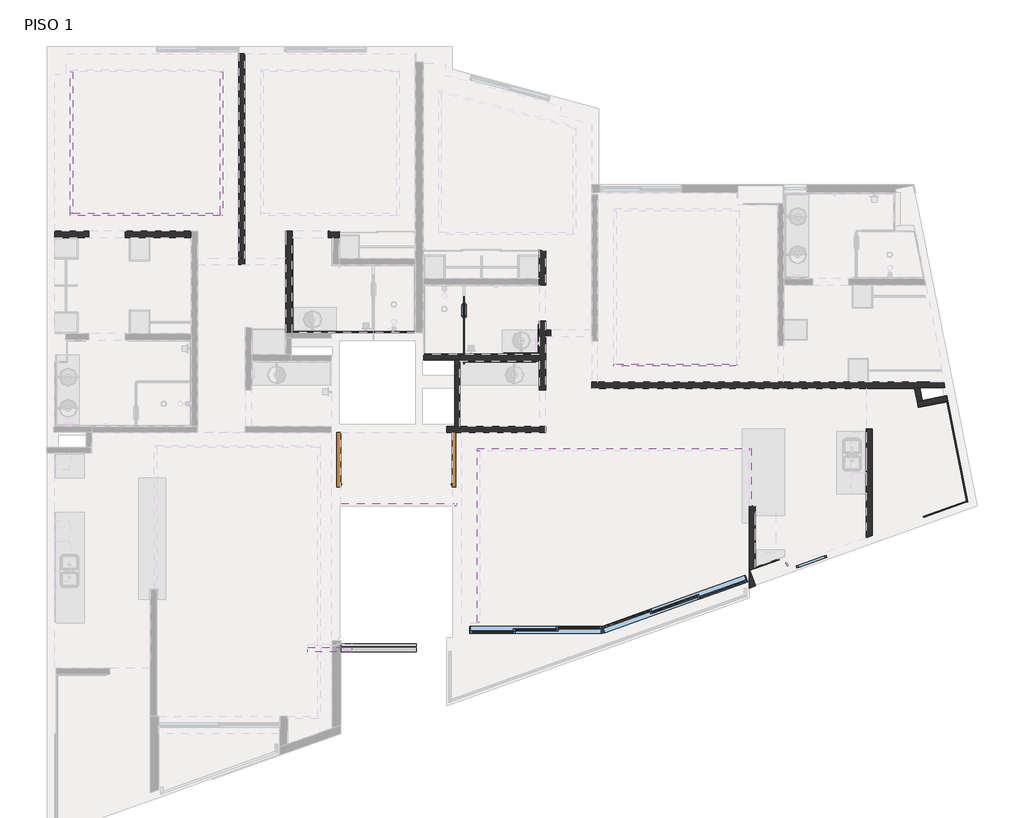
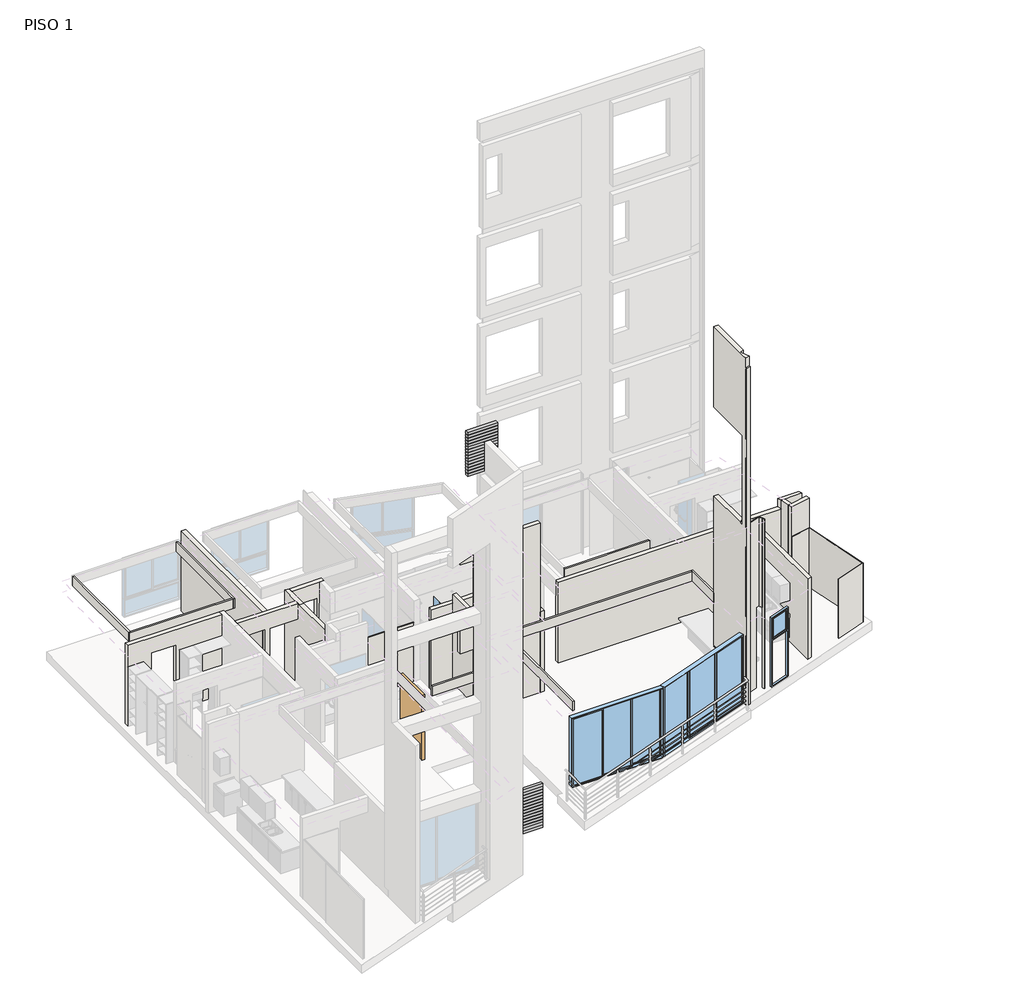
# One storey, part 2 of 4: 34 walls, 30 plates, 7 members, 6 windows, 2 doors.
"""IFC4 building model written with IfcOpenShell, lengths in millimetres."""

from ifc_helpers import new_model, si_unit, frame, origin, place, context, project, spatial, polyline, outline, extrude, faceted_brep, transform, mapped, element, save
from components import door_120_x_220_cm_1a80d65d, door_120_x_220_cm_c73bc2d5, montante_rectangular_montante_rectangular_1_5x5_73253757, plate_31059733, plate_64fcae3b, window_25a9a49d, window_1067b7f7, window_0b8e7a57, window_47e7c2ce, window_0ac24249, window_db60b2a9

model = new_model("IFC4")

# Units and contexts
model_context = context("Model", 3, world=origin())
ifc_project = project(units=[si_unit("LENGTHUNIT", "METRE", prefix="MILLI")], contexts=[model_context])

# Site, building, storey
site = spatial("IfcSite", under=ifc_project)
building = spatial("IfcBuilding", under=site)
storey = spatial("IfcBuildingStorey", under=building, Name="PISO 1", Elevation=3000.0)

# Doors
placement = place(None, origin())
door_120_x_220_cm_shape = door_120_x_220_cm_1a80d65d(model_context)
element("IfcDoor", 1, ObjectType="PUERTA ACCESO_PIVOT : 120 x 220 cm", at=placement, inside=storey, context=model_context, shape_type="MappedRepresentation", body=[
    mapped(door_120_x_220_cm_shape, transform((40339.5059119, 28707.1436004, 3000.0), x_axis=(0.0, 1.0, 0.0), y_axis=(-1.0, 0.0, 0.0), z_axis=(0.0, 0.0, 1.0))),
])
door_120_x_220_cm_2_shape = door_120_x_220_cm_c73bc2d5(model_context)
element("IfcDoor", 2, ObjectType="PUERTA ACCESO_PIVOT : 120 x 220 cm", at=placement, inside=storey, context=model_context, shape_type="MappedRepresentation", body=[
    mapped(door_120_x_220_cm_2_shape, transform((43004.5059119, 28707.1436004, 3000.0), x_axis=(0.0, 1.0, 0.0), y_axis=(-1.0, 0.0, 0.0), z_axis=(0.0, 0.0, 1.0))),
])

# Members
montante_rectangular_montante_rectangular_1_5x5_shape = montante_rectangular_montante_rectangular_1_5x5_73253757(model_context)
element("IfcMember", 3, ObjectType="Montante rectangular : Montante rectangular - 1.5x5", at=placement, inside=storey, context=model_context, shape_type="MappedRepresentation", body=[
    mapped(montante_rectangular_montante_rectangular_1_5x5_shape, transform((40444.5059119, 25044.0111729, 3112.2350993), x_axis=(0.0, 0.0, 1.0), y_axis=(0.0, 1.0, 0.0), z_axis=(-1.0, 0.0, 0.0))),
])
element("IfcMember", 4, ObjectType="Montante rectangular : Montante rectangular - 1.5x5", at=placement, inside=storey, context=model_context, shape_type="MappedRepresentation", body=[
    mapped(montante_rectangular_montante_rectangular_1_5x5_shape, transform((40444.5059119, 25044.0111729, 3212.2019868), x_axis=(0.0, 0.0, 1.0), y_axis=(0.0, 1.0, 0.0), z_axis=(-1.0, 0.0, 0.0))),
])
element("IfcMember", 5, ObjectType="Montante rectangular : Montante rectangular - 1.5x5", at=placement, inside=storey, context=model_context, shape_type="MappedRepresentation", body=[
    mapped(montante_rectangular_montante_rectangular_1_5x5_shape, transform((40444.5059119, 25044.0111729, 3312.1688742), x_axis=(0.0, 0.0, 1.0), y_axis=(0.0, 1.0, 0.0), z_axis=(-1.0, 0.0, 0.0))),
])
element("IfcMember", 6, ObjectType="Montante rectangular : Montante rectangular - 1.5x5", at=placement, inside=storey, context=model_context, shape_type="MappedRepresentation", body=[
    mapped(montante_rectangular_montante_rectangular_1_5x5_shape, transform((40444.5059119, 25044.0111729, 3412.1357616), x_axis=(0.0, 0.0, 1.0), y_axis=(0.0, 1.0, 0.0), z_axis=(-1.0, 0.0, 0.0))),
])
element("IfcMember", 7, ObjectType="Montante rectangular : Montante rectangular - 1.5x5", at=placement, inside=storey, context=model_context, shape_type="MappedRepresentation", body=[
    mapped(montante_rectangular_montante_rectangular_1_5x5_shape, transform((40444.5059119, 25044.0111729, 3512.102649), x_axis=(0.0, 0.0, 1.0), y_axis=(0.0, 1.0, 0.0), z_axis=(-1.0, 0.0, 0.0))),
])
element("IfcMember", 8, ObjectType="Montante rectangular : Montante rectangular - 1.5x5", at=placement, inside=storey, context=model_context, shape_type="MappedRepresentation", body=[
    mapped(montante_rectangular_montante_rectangular_1_5x5_shape, transform((40444.5059119, 25044.0111729, 3612.0695364), x_axis=(0.0, 0.0, 1.0), y_axis=(0.0, 1.0, 0.0), z_axis=(-1.0, 0.0, 0.0))),
])
element("IfcMember", 9, ObjectType="Montante rectangular : Montante rectangular - 1.5x5", at=placement, inside=storey, context=model_context, shape_type="MappedRepresentation", body=[
    mapped(montante_rectangular_montante_rectangular_1_5x5_shape, transform((40444.5059119, 25044.0111729, 3712.0364238), x_axis=(0.0, 0.0, 1.0), y_axis=(0.0, 1.0, 0.0), z_axis=(-1.0, 0.0, 0.0))),
])

# Plates
plate_shape = plate_31059733(model_context)
element("IfcPlate", 10, ObjectType="Panel del sistema vacío : Vacío", at=placement, inside=storey, context=model_context, shape_type="MappedRepresentation", body=[
    mapped(plate_shape, transform((40204.5059119, 25044.0111729, 15015.8), x_axis=(-1.0, 0.0, 0.0), y_axis=(0.0, -1.0, 0.0), z_axis=(0.0, 0.0, 1.0))),
])
element("IfcPlate", 11, ObjectType="Panel del sistema vacío : Vacío", at=placement, inside=storey, context=model_context, shape_type="MappedRepresentation", body=[
    mapped(plate_shape, transform((40204.5059119, 25044.0111729, 15115.7666667), x_axis=(-1.0, 0.0, 0.0), y_axis=(0.0, -1.0, 0.0), z_axis=(0.0, 0.0, 1.0))),
])
element("IfcPlate", 12, ObjectType="Panel del sistema vacío : Vacío", at=placement, inside=storey, context=model_context, shape_type="MappedRepresentation", body=[
    mapped(plate_shape, transform((40204.5059119, 25044.0111729, 15215.7333333), x_axis=(-1.0, 0.0, 0.0), y_axis=(0.0, -1.0, 0.0), z_axis=(0.0, 0.0, 1.0))),
])
element("IfcPlate", 13, ObjectType="Panel del sistema vacío : Vacío", at=placement, inside=storey, context=model_context, shape_type="MappedRepresentation", body=[
    mapped(plate_shape, transform((40204.5059119, 25044.0111729, 15315.7), x_axis=(-1.0, 0.0, 0.0), y_axis=(0.0, -1.0, 0.0), z_axis=(0.0, 0.0, 1.0))),
])
element("IfcPlate", 14, ObjectType="Panel del sistema vacío : Vacío", at=placement, inside=storey, context=model_context, shape_type="MappedRepresentation", body=[
    mapped(plate_shape, transform((40204.5059119, 25044.0111729, 15415.6666667), x_axis=(-1.0, 0.0, 0.0), y_axis=(0.0, -1.0, 0.0), z_axis=(0.0, 0.0, 1.0))),
])
element("IfcPlate", 15, ObjectType="Panel del sistema vacío : Vacío", at=placement, inside=storey, context=model_context, shape_type="MappedRepresentation", body=[
    mapped(plate_shape, transform((40204.5059119, 25044.0111729, 15515.6333333), x_axis=(-1.0, 0.0, 0.0), y_axis=(0.0, -1.0, 0.0), z_axis=(0.0, 0.0, 1.0))),
])
element("IfcPlate", 16, ObjectType="Panel del sistema vacío : Vacío", at=placement, inside=storey, context=model_context, shape_type="MappedRepresentation", body=[
    mapped(plate_shape, transform((40204.5059119, 25044.0111729, 15615.6), x_axis=(-1.0, 0.0, 0.0), y_axis=(0.0, -1.0, 0.0), z_axis=(0.0, 0.0, 1.0))),
])
element("IfcPlate", 17, ObjectType="Panel del sistema vacío : Vacío", at=placement, inside=storey, context=model_context, shape_type="MappedRepresentation", body=[
    mapped(plate_shape, transform((40204.5059119, 25044.0111729, 15715.5666667), x_axis=(-1.0, 0.0, 0.0), y_axis=(0.0, -1.0, 0.0), z_axis=(0.0, 0.0, 1.0))),
])
element("IfcPlate", 18, ObjectType="Panel del sistema vacío : Vacío", at=placement, inside=storey, context=model_context, shape_type="MappedRepresentation", body=[
    mapped(plate_shape, transform((40204.5059119, 25044.0111729, 15815.5333333), x_axis=(-1.0, 0.0, 0.0), y_axis=(0.0, -1.0, 0.0), z_axis=(0.0, 0.0, 1.0))),
])
element("IfcPlate", 19, ObjectType="Panel del sistema vacío : Vacío", at=placement, inside=storey, context=model_context, shape_type="MappedRepresentation", body=[
    mapped(plate_shape, transform((40204.5059119, 25044.0111729, 15915.5), x_axis=(-1.0, 0.0, 0.0), y_axis=(0.0, -1.0, 0.0), z_axis=(0.0, 0.0, 1.0))),
])
element("IfcPlate", 20, ObjectType="Panel del sistema vacío : Vacío", at=placement, inside=storey, context=model_context, shape_type="MappedRepresentation", body=[
    mapped(plate_shape, transform((40204.5059119, 25044.0111729, 16015.4666667), x_axis=(-1.0, 0.0, 0.0), y_axis=(0.0, -1.0, 0.0), z_axis=(0.0, 0.0, 1.0))),
])
element("IfcPlate", 21, ObjectType="Panel del sistema vacío : Vacío", at=placement, inside=storey, context=model_context, shape_type="MappedRepresentation", body=[
    mapped(plate_shape, transform((40204.5059119, 25044.0111729, 16115.4333333), x_axis=(-1.0, 0.0, 0.0), y_axis=(0.0, -1.0, 0.0), z_axis=(0.0, 0.0, 1.0))),
])
element("IfcPlate", 22, ObjectType="Panel del sistema vacío : Vacío", at=placement, inside=storey, context=model_context, shape_type="MappedRepresentation", body=[
    mapped(plate_shape, transform((40204.5059119, 25044.0111729, 16215.4), x_axis=(-1.0, 0.0, 0.0), y_axis=(0.0, -1.0, 0.0), z_axis=(0.0, 0.0, 1.0))),
])
element("IfcPlate", 23, ObjectType="Panel del sistema vacío : Vacío", at=placement, inside=storey, context=model_context, shape_type="MappedRepresentation", body=[
    mapped(plate_shape, transform((40204.5059119, 25044.0111729, 16315.3666667), x_axis=(-1.0, 0.0, 0.0), y_axis=(0.0, -1.0, 0.0), z_axis=(0.0, 0.0, 1.0))),
])
element("IfcPlate", 24, ObjectType="Panel del sistema vacío : Vacío", at=placement, inside=storey, context=model_context, shape_type="MappedRepresentation", body=[
    mapped(plate_shape, transform((40204.5059119, 25044.0111729, 16415.3333333), x_axis=(-1.0, 0.0, 0.0), y_axis=(0.0, -1.0, 0.0), z_axis=(0.0, 0.0, 1.0))),
])
plate_2_shape = plate_64fcae3b(model_context)
element("IfcPlate", 25, ObjectType="Panel del sistema vacío : Vacío", at=placement, inside=storey, context=model_context, shape_type="MappedRepresentation", body=[
    mapped(plate_2_shape, transform((41279.5059119, 25044.0111729, 2320.0), x_axis=(-1.0, 0.0, 0.0), y_axis=(0.0, -1.0, 0.0), z_axis=(0.0, 0.0, 1.0))),
])
element("IfcPlate", 26, ObjectType="Panel del sistema vacío : Vacío", at=placement, inside=storey, context=model_context, shape_type="MappedRepresentation", body=[
    mapped(plate_2_shape, transform((41279.5059119, 25044.0111729, 2419.9668874), x_axis=(-1.0, 0.0, 0.0), y_axis=(0.0, -1.0, 0.0), z_axis=(0.0, 0.0, 1.0))),
])
element("IfcPlate", 27, ObjectType="Panel del sistema vacío : Vacío", at=placement, inside=storey, context=model_context, shape_type="MappedRepresentation", body=[
    mapped(plate_2_shape, transform((41279.5059119, 25044.0111729, 2519.9337748), x_axis=(-1.0, 0.0, 0.0), y_axis=(0.0, -1.0, 0.0), z_axis=(0.0, 0.0, 1.0))),
])
element("IfcPlate", 28, ObjectType="Panel del sistema vacío : Vacío", at=placement, inside=storey, context=model_context, shape_type="MappedRepresentation", body=[
    mapped(plate_2_shape, transform((41279.5059119, 25044.0111729, 2619.9006623), x_axis=(-1.0, 0.0, 0.0), y_axis=(0.0, -1.0, 0.0), z_axis=(0.0, 0.0, 1.0))),
])
element("IfcPlate", 29, ObjectType="Panel del sistema vacío : Vacío", at=placement, inside=storey, context=model_context, shape_type="MappedRepresentation", body=[
    mapped(plate_2_shape, transform((41279.5059119, 25044.0111729, 2719.8675497), x_axis=(-1.0, 0.0, 0.0), y_axis=(0.0, -1.0, 0.0), z_axis=(0.0, 0.0, 1.0))),
])
element("IfcPlate", 30, ObjectType="Panel del sistema vacío : Vacío", at=placement, inside=storey, context=model_context, shape_type="MappedRepresentation", body=[
    mapped(plate_2_shape, transform((41279.5059119, 25044.0111729, 2819.8344371), x_axis=(-1.0, 0.0, 0.0), y_axis=(0.0, -1.0, 0.0), z_axis=(0.0, 0.0, 1.0))),
])
element("IfcPlate", 31, ObjectType="Panel del sistema vacío : Vacío", at=placement, inside=storey, context=model_context, shape_type="MappedRepresentation", body=[
    mapped(plate_2_shape, transform((41279.5059119, 25044.0111729, 2919.8013245), x_axis=(-1.0, 0.0, 0.0), y_axis=(0.0, -1.0, 0.0), z_axis=(0.0, 0.0, 1.0))),
])
element("IfcPlate", 32, ObjectType="Panel del sistema vacío : Vacío", at=placement, inside=storey, context=model_context, shape_type="MappedRepresentation", body=[
    mapped(plate_2_shape, transform((41279.5059119, 25044.0111729, 3019.7682119), x_axis=(-1.0, 0.0, 0.0), y_axis=(0.0, -1.0, 0.0), z_axis=(0.0, 0.0, 1.0))),
])
element("IfcPlate", 33, ObjectType="Panel del sistema vacío : Vacío", at=placement, inside=storey, context=model_context, shape_type="MappedRepresentation", body=[
    mapped(plate_2_shape, transform((41279.5059119, 25044.0111729, 3119.7350993), x_axis=(-1.0, 0.0, 0.0), y_axis=(0.0, -1.0, 0.0), z_axis=(0.0, 0.0, 1.0))),
])
element("IfcPlate", 34, ObjectType="Panel del sistema vacío : Vacío", at=placement, inside=storey, context=model_context, shape_type="MappedRepresentation", body=[
    mapped(plate_2_shape, transform((41279.5059119, 25044.0111729, 3219.7019868), x_axis=(-1.0, 0.0, 0.0), y_axis=(0.0, -1.0, 0.0), z_axis=(0.0, 0.0, 1.0))),
])
element("IfcPlate", 35, ObjectType="Panel del sistema vacío : Vacío", at=placement, inside=storey, context=model_context, shape_type="MappedRepresentation", body=[
    mapped(plate_2_shape, transform((41279.5059119, 25044.0111729, 3319.6688742), x_axis=(-1.0, 0.0, 0.0), y_axis=(0.0, -1.0, 0.0), z_axis=(0.0, 0.0, 1.0))),
])
element("IfcPlate", 36, ObjectType="Panel del sistema vacío : Vacío", at=placement, inside=storey, context=model_context, shape_type="MappedRepresentation", body=[
    mapped(plate_2_shape, transform((41279.5059119, 25044.0111729, 3419.6357616), x_axis=(-1.0, 0.0, 0.0), y_axis=(0.0, -1.0, 0.0), z_axis=(0.0, 0.0, 1.0))),
])
element("IfcPlate", 37, ObjectType="Panel del sistema vacío : Vacío", at=placement, inside=storey, context=model_context, shape_type="MappedRepresentation", body=[
    mapped(plate_2_shape, transform((41279.5059119, 25044.0111729, 3519.602649), x_axis=(-1.0, 0.0, 0.0), y_axis=(0.0, -1.0, 0.0), z_axis=(0.0, 0.0, 1.0))),
])
element("IfcPlate", 38, ObjectType="Panel del sistema vacío : Vacío", at=placement, inside=storey, context=model_context, shape_type="MappedRepresentation", body=[
    mapped(plate_2_shape, transform((41279.5059119, 25044.0111729, 3619.5695364), x_axis=(-1.0, 0.0, 0.0), y_axis=(0.0, -1.0, 0.0), z_axis=(0.0, 0.0, 1.0))),
])
element("IfcPlate", 39, ObjectType="Panel del sistema vacío : Vacío", at=placement, inside=storey, context=model_context, shape_type="MappedRepresentation", body=[
    mapped(plate_2_shape, transform((41279.5059119, 25044.0111729, 3719.5364238), x_axis=(-1.0, 0.0, 0.0), y_axis=(0.0, -1.0, 0.0), z_axis=(0.0, 0.0, 1.0))),
])

# Walls
element("IfcWall", 40, ObjectType="Muro block 12cms_int_ductos", at=placement, inside=storey, context=model_context, shape_type="Brep", body=[
    faceted_brep([(42279.5059119, 31324.0104755, 3000.0), (42954.5059119, 31324.0104755, 3000.0), (43074.5059119, 31324.0104755, 3000.0), (43074.5059119, 31324.0104755, 5720.0), (42954.5059119, 31324.0104755, 5720.0), (42279.5059119, 31324.0104755, 5720.0), (43074.5059119, 31444.0104755, 3000.0), (42279.5059119, 31444.0104755, 3000.0), (42279.5059119, 31444.0104755, 5720.0), (43074.5059119, 31444.0104755, 5720.0)], [[[0, 1, 2, 3, 4, 5]], [[6, 7, 8, 9]], [[2, 1, 0, 7, 6]], [[5, 4, 3, 9, 8]], [[2, 6, 9, 3]], [[7, 0, 5, 8]]]),
])
element("IfcWall", 41, ObjectType="Muro block 12cms_int_ductos", at=placement, inside=storey, context=model_context, shape_type="Brep", body=[
    faceted_brep([(43074.5059119, 29864.010184, 3000.0), (43074.5059119, 31304.0104755, 3000.0), (43074.5059119, 31324.0104755, 3000.0), (43074.5059119, 31324.0104755, 5720.0), (43074.5059119, 31324.0104755, 6000.0), (43074.5059119, 29864.010184, 6000.0), (43074.5059119, 29794.010184, 6000.0), (43074.5059119, 29794.010184, 5720.0), (43074.5059119, 29864.010184, 5720.0), (42954.5059119, 29864.010184, 3000.0), (42954.5059119, 29864.010184, 5720.0), (42954.5059119, 29794.010184, 5720.0), (42954.5059119, 29794.010184, 6000.0), (42954.5059119, 29864.010184, 6000.0), (42954.5059119, 31324.0104755, 6000.0), (42954.5059119, 31324.0104755, 3000.0)], [[[0, 1, 2, 3, 4, 5, 6, 7, 8]], [[9, 10, 11, 12, 13, 14, 15]], [[2, 1, 0, 9, 15]], [[6, 5, 4, 14, 13, 12]], [[2, 15, 14, 4, 3]], [[7, 6, 12, 11]], [[7, 11, 10, 8]], [[0, 8, 10, 9]]]),
])
element("IfcWall", 42, ObjectType="Muro block 12cms_int_ductos", at=placement, inside=storey, context=model_context, shape_type="Brep", body=[
    faceted_brep([(53085.5419689, 30724.0100923, 6000.0), (53085.5419689, 30724.0100923, 3000.0), (53207.9252394, 30724.0100923, 3000.0), (53760.5143431, 30724.0100923, 3000.0), (53760.5143431, 30724.0100923, 6000.0), (53207.9252394, 30724.0100923, 6000.0), (53061.5073088, 30844.0100923, 3000.0), (53061.5073088, 30844.0100923, 5720.0), (53061.5073088, 30844.0100923, 6000.0), (53736.479683, 30844.0100923, 6000.0), (53736.479683, 30844.0100923, 3000.0)], [[[0, 1, 2, 3, 4, 5]], [[6, 7, 8, 9, 10]], [[3, 2, 1, 6, 10]], [[0, 5, 4, 9, 8]], [[0, 8, 7, 6, 1]], [[4, 3, 10, 9]]]),
])
element("IfcWall", 43, ObjectType="Muro block 12cms_int_ductos", at=placement, inside=storey, context=model_context, shape_type="Brep", body=[
    faceted_brep([(53171.4946911, 30294.866239, 6000.0), (53820.4344465, 30424.8416261, 6000.0), (53796.8678331, 30542.5047671, 6000.0), (53265.5912187, 30436.0959933, 6000.0), (53147.9280777, 30412.5293799, 6000.0), (53171.4946911, 30294.866239, 3000.0), (53800.823923, 30420.9138573, 3000.0), (53820.4344465, 30424.8416261, 3000.0), (53820.4344465, 30424.8416261, 5000.0), (53147.9280777, 30412.5293799, 3000.0), (53796.8678331, 30542.5047671, 3000.0), (53265.5912187, 30436.0959933, 3000.0)], [[[0, 1, 2, 3, 4]], [[5, 6, 7, 8, 1, 0]], [[9, 4, 3, 2, 10, 11]], [[7, 6, 5, 9, 11, 10]], [[5, 0, 4, 9]], [[7, 10, 2, 1, 8]]]),
])
element("IfcWall", 44, ObjectType="Muro block 12cms_int_ductos", at=placement, inside=storey, context=model_context, shape_type="Brep", body=[
    faceted_brep([(53265.5912187, 30436.0959933, 6000.0), (53207.9252394, 30724.0100923, 6000.0), (53085.5419689, 30724.0100923, 6000.0), (53147.9280777, 30412.5293799, 6000.0), (53265.5912187, 30436.0959933, 3000.0), (53207.9252394, 30724.0100923, 3000.0), (53147.9280777, 30412.5293799, 3000.0), (53085.5419689, 30724.0100923, 3000.0), (53089.5477456, 30704.0100923, 3000.0)], [[[0, 1, 2, 3]], [[4, 5, 1, 0]], [[6, 3, 2, 7, 8]], [[5, 4, 6, 8, 7]], [[4, 0, 3, 6]], [[5, 7, 2, 1]]]),
])
element("IfcWall", 45, ObjectType="Plafond tablaroca", at=placement, inside=storey, context=model_context, shape_type="Brep", body=[
    faceted_brep([(37794.5300226, 37680.4026232, 5402.7), (37794.5300226, 34568.9785701, 5402.7), (37794.5300226, 34516.2785701, 5402.7), (37794.5300226, 34516.2785701, 5720.0), (37794.5300226, 34568.9785701, 5720.0), (37794.5300226, 37680.4026232, 5720.0), (37847.2300226, 37680.4026232, 5402.7), (37847.2300226, 37680.4026232, 5720.0), (37847.2300226, 34516.2785701, 5720.0), (37847.2300226, 34516.2785701, 5402.7)], [[[0, 1, 2, 3, 4, 5]], [[6, 7, 8, 9]], [[0, 5, 7, 6]], [[3, 2, 9, 8]], [[2, 1, 0, 6, 9]], [[5, 4, 3, 8, 7]]]),
])
element("IfcWall", 46, ObjectType="Plafond tablaroca", at=placement, inside=storey, context=model_context, shape_type="Brep", body=[
    faceted_brep([(37794.5300226, 34568.9785701, 5402.7), (34543.8589874, 34568.9785701, 5402.7), (34491.1589874, 34568.9785701, 5402.7), (34491.1589874, 34568.9785701, 5720.0), (34543.8589874, 34568.9785701, 5720.0), (37794.5300226, 34568.9785701, 5720.0), (37794.5300226, 34516.2785701, 5402.7), (37794.5300226, 34516.2785701, 5720.0), (34491.1589874, 34516.2785701, 5720.0), (34491.1589874, 34516.2785701, 5402.7)], [[[0, 1, 2, 3, 4, 5]], [[6, 7, 8, 9]], [[0, 5, 7, 6]], [[3, 2, 9, 8]], [[5, 4, 3, 8, 7]], [[2, 1, 0, 6, 9]]]),
])
element("IfcWall", 47, ObjectType="Plafond tablaroca", at=placement, inside=storey, context=model_context, shape_type="SweptSolid", body=[
    extrude(outline(polyline([(34543.8589874, 37680.4026232), (34543.8589874, 34568.9785701), (34491.1589874, 34568.9785701), (34491.1589874, 37680.4026232), (34543.8589874, 37680.4026232)])), frame((0.0, 0.0, 5402.7), z_axis=(0.0, 0.0, 1.0), x_axis=(1.0, 0.0, 0.0)), (0.0, 0.0, 1.0), 317.3),
])
element("IfcWall", 48, ObjectType="Plafond tablaroca", at=placement, inside=storey, context=model_context, shape_type="Brep", body=[
    faceted_brep([(49174.4822189, 31244.0100923, 5402.7), (46514.5059119, 31244.0100923, 5402.7), (46461.8059119, 31244.0100923, 5402.7), (46461.8059119, 31244.0100923, 5720.0), (46514.5059119, 31244.0100923, 5720.0), (49174.4822189, 31244.0100923, 5720.0), (49174.4822189, 31191.3100923, 5402.7), (49174.4822189, 31191.3100923, 5720.0), (46461.8059119, 31191.3100923, 5720.0), (46461.8059119, 31191.3100923, 5402.7)], [[[0, 1, 2, 3, 4, 5]], [[6, 7, 8, 9]], [[0, 5, 7, 6]], [[3, 2, 9, 8]], [[2, 1, 0, 6, 9]], [[5, 4, 3, 8, 7]]]),
])
element("IfcWall", 49, ObjectType="Plafond tablaroca", at=placement, inside=storey, context=model_context, shape_type="Brep", body=[
    faceted_brep([(49444.5059119, 29376.710184, 5402.7), (49444.5059119, 29324.010184, 5402.7), (49444.5059119, 28111.0432167, 5402.7), (49444.5059119, 28111.0432167, 5720.0), (49444.5059119, 29324.010184, 5720.0), (49444.5059119, 29376.710184, 5720.0), (49497.2059119, 29376.710184, 5402.7), (49497.2059119, 29376.710184, 5720.0), (49497.2059119, 28111.0432167, 5720.0), (49497.2059119, 28111.0432167, 5402.7)], [[[0, 1, 2, 3, 4, 5]], [[6, 7, 8, 9]], [[3, 2, 9, 8]], [[0, 5, 7, 6]], [[2, 1, 0, 6, 9]], [[5, 4, 3, 8, 7]]]),
])
element("IfcWall", 50, ObjectType="Plafond tablaroca", at=placement, inside=storey, context=model_context, shape_type="SweptSolid", body=[
    extrude(outline(polyline([(5400.0, 43004.5059119), (5720.0, 43004.5059119), (5720.0, 40444.5059119), (5402.7, 40444.5059119), (5402.7, 42899.5059119), (5400.0, 42899.5059119), (5400.0, 43004.5059119)])), frame((0.0, 28111.0432167, 0.0), z_axis=(0.0, 1.0, 0.0), x_axis=(0.0, 0.0, 1.0)), (0.0, 0.0, 1.0), 52.7),
])
element("IfcWall", 51, ObjectType="Plafond tablaroca", at=placement, inside=storey, context=model_context, shape_type="Brep", body=[
    faceted_brep([(43456.8059119, 29324.010184, 5402.7), (43509.5059119, 29324.010184, 5402.7), (49444.5059119, 29324.010184, 5402.7), (49444.5059119, 29324.010184, 5720.0), (43509.5059119, 29324.010184, 5720.0), (43456.8059119, 29324.010184, 5720.0), (43456.8059119, 29376.710184, 5402.7), (43456.8059119, 29376.710184, 5720.0), (49444.5059119, 29376.710184, 5720.0), (49444.5059119, 29376.710184, 5402.7)], [[[0, 1, 2, 3, 4, 5]], [[6, 7, 8, 9]], [[0, 5, 7, 6]], [[3, 2, 9, 8]], [[2, 1, 0, 6, 9]], [[5, 4, 3, 8, 7]]]),
])
element("IfcWall", 52, ObjectType="Plafond tablaroca", at=placement, inside=storey, context=model_context, shape_type="SweptSolid", body=[
    extrude(outline(polyline([(43509.5059119, 29324.010184), (43509.5059119, 25545.2541962), (43456.8059119, 25545.2541962), (43456.8059119, 29324.010184), (43509.5059119, 29324.010184)])), frame((0.0, 0.0, 5402.7), z_axis=(0.0, 0.0, 1.0), x_axis=(1.0, 0.0, 0.0)), (0.0, 0.0, 1.0), 317.3),
])
element("IfcWall", 53, ObjectType="Cerámica baño", at=placement, inside=storey, context=model_context, shape_type="Brep", body=[
    faceted_brep([(42064.5059119, 31953.9733508, 5000.0), (42064.5059119, 31953.9733508, 3000.0), (41184.5059119, 31953.9733508, 3000.0), (41184.5059119, 31953.9733508, 5000.0), (42064.5059119, 31933.9733508, 3000.0), (42064.5059119, 31933.9733508, 5000.0), (41184.5059119, 31933.9733508, 5000.0), (41184.5059119, 31933.9733508, 3000.0)], [[[0, 1, 2, 3]], [[4, 5, 6, 7]], [[1, 4, 7, 2]], [[5, 0, 3, 6]], [[1, 0, 5, 4]], [[3, 2, 7, 6]]]),
    faceted_brep([(39374.5300226, 31953.9733508, 3000.0), (39374.5300226, 31953.9733508, 5000.0), (39394.5300226, 31953.9733508, 5000.0), (41144.5059119, 31953.9733508, 5000.0), (41144.5059119, 31953.9733508, 3000.0), (39394.5300226, 31953.9733508, 3000.0), (39374.5300226, 31933.9733508, 5000.0), (39374.5300226, 31933.9733508, 3000.0), (41144.5059119, 31933.9733508, 3000.0), (41144.5059119, 31933.9733508, 5000.0)], [[[0, 1, 2, 3, 4, 5]], [[6, 7, 8, 9]], [[7, 0, 5, 4, 8]], [[1, 6, 9, 3, 2]], [[1, 0, 7, 6]], [[4, 3, 9, 8]]]),
])
element("IfcWall", 54, ObjectType="Cerámica baño", at=placement, inside=storey, context=model_context, shape_type="Brep", body=[
    faceted_brep([(42279.5059119, 31464.0104754, 3000.0), (42279.5059119, 31464.0104754, 5000.0), (42299.5059119, 31464.0104754, 5000.0), (43144.5060721, 31464.0104754, 5000.0), (43144.5060721, 31464.0104754, 3000.0), (42299.5059119, 31464.0104754, 3000.0), (42279.5059119, 31444.0104754, 5000.0), (42279.5059119, 31444.0104754, 3000.0), (43144.5060721, 31444.0104754, 3000.0), (43144.5060721, 31444.0104754, 5000.0)], [[[0, 1, 2, 3, 4, 5]], [[6, 7, 8, 9]], [[7, 0, 5, 4, 8]], [[1, 6, 9, 3, 2]], [[1, 0, 7, 6]], [[4, 3, 9, 8]]]),
    faceted_brep([(44824.5251366, 31464.0104754, 5000.0), (44824.5251366, 31464.0104754, 3000.0), (44804.5251366, 31464.0104754, 3000.0), (43184.5060721, 31464.0104754, 3000.0), (43184.5060721, 31464.0104754, 5000.0), (44804.5251366, 31464.0104754, 5000.0), (44824.5251366, 31444.0104754, 3000.0), (44824.5251366, 31444.0104754, 5000.0), (43184.5060721, 31444.0104754, 5000.0), (43184.5060721, 31444.0104754, 3000.0)], [[[0, 1, 2, 3, 4, 5]], [[6, 7, 8, 9]], [[1, 6, 9, 3, 2]], [[7, 0, 5, 4, 8]], [[1, 0, 7, 6]], [[4, 3, 9, 8]]]),
])
element("IfcWall", 55, ObjectType="Cerámica baño", at=placement, inside=storey, context=model_context, shape_type="SweptSolid", body=[
    extrude(outline(polyline([(39394.5300226, 34028.9785701), (39394.5300226, 31953.9733508), (39374.5300226, 31953.9733508), (39374.5300226, 34028.9785701), (39394.5300226, 34028.9785701)])), frame((0.0, 0.0, 3000.0), z_axis=(0.0, 0.0, 1.0), x_axis=(1.0, 0.0, 0.0)), (0.0, 0.0, 1.0), 2000.0),
])
element("IfcWall", 56, ObjectType="Cerámica baño", at=placement, inside=storey, context=model_context, shape_type="SweptSolid", body=[
    extrude(outline(polyline([(44824.5251366, 32114.0113856), (44824.5251366, 31464.0104754), (44804.5251366, 31464.0104754), (44804.5251366, 32114.0113856), (44824.5251366, 32114.0113856)])), frame((0.0, 0.0, 3000.0), z_axis=(0.0, 0.0, 1.0), x_axis=(1.0, 0.0, 0.0)), (0.0, 0.0, 1.0), 2000.0),
])
element("IfcWall", 57, ObjectType="Cerámica baño", at=placement, inside=storey, context=model_context, shape_type="Brep", body=[
    faceted_brep([(54265.4326509, 28203.0592396, 3000.0), (53820.4344465, 30424.8416261, 3000.0), (53820.4344465, 30424.8416261, 5000.0), (54265.4326509, 28203.0592396, 5000.0), (54246.3942771, 28196.2748474, 3000.0), (54246.3942771, 28196.2748474, 5000.0), (54242.4250551, 28216.0923378, 5000.0), (53804.7516919, 30401.3033338, 5000.0), (53800.823923, 30420.9138573, 5000.0), (53800.823923, 30420.9138573, 3000.0), (53804.7516919, 30401.3033338, 3000.0), (54242.4250551, 28216.0923378, 3000.0)], [[[0, 1, 2, 3]], [[4, 5, 6, 7, 8, 9, 10, 11]], [[1, 0, 4, 11, 10, 9]], [[3, 2, 8, 7, 6, 5]], [[2, 1, 9, 8]], [[0, 3, 5, 4]]]),
])
element("IfcWall", 58, ObjectType="Cerámica baño", at=placement, inside=storey, context=model_context, shape_type="SweptSolid", body=[
    extrude(outline(polyline([(53171.4946911, 30294.866239), (53800.823923, 30420.9138573), (53804.7516919, 30401.3033338), (53175.42246, 30275.2557155), (53171.4946911, 30294.866239)])), frame((0.0, 0.0, 3000.0), z_axis=(0.0, 0.0, 1.0), x_axis=(1.0, 0.0, 0.0)), (0.0, 0.0, 1.0), 2000.0),
])
element("IfcWall", 59, ObjectType="Cerámica baño", at=placement, inside=storey, context=model_context, shape_type="SweptSolid", body=[
    extrude(outline(polyline([(54246.3942771, 28196.2748474), (53289.5122761, 27855.2865395), (53282.7987377, 27874.1260831), (54242.4250551, 28216.0923378), (54246.3942771, 28196.2748474)])), frame((0.0, 0.0, 3000.0), z_axis=(0.0, 0.0, 1.0), x_axis=(1.0, 0.0, 0.0)), (0.0, 0.0, 1.0), 2000.0),
])
element("IfcWall", 60, ObjectType="Muro block 14cms_int", at=placement, inside=storey, context=model_context, shape_type="SweptSolid", body=[
    extrude(outline(polyline([(3000.0, 37154.5300226), (5720.0, 37154.5300226), (5720.0, 34143.8589874), (3000.0, 34143.8589874), (3000.0, 34894.5300226), (5200.0, 34894.5300226), (5200.0, 35694.5300226), (3000.0, 35694.5300226), (3000.0, 37154.5300226)])), frame((0.0, 34028.9785701, 0.0), z_axis=(0.0, 1.0, 0.0), x_axis=(0.0, 0.0, 1.0)), (0.0, 0.0, 1.0), 140.0),
])
element("IfcWall", 61, ObjectType="Muro block 14cms_int", at=placement, inside=storey, context=model_context, shape_type="Brep", body=[
    faceted_brep([(38334.5300226, 33568.9784839, 3000.0), (38334.5300226, 38080.4026232, 3000.0), (38334.5300226, 38080.4026232, 5720.0), (38334.5300226, 33568.9784839, 5720.0), (38334.5300226, 33568.9784839, 5200.0), (38194.5300226, 33568.9784839, 3000.0), (38194.5300226, 33568.9784839, 5200.0), (38194.5300226, 33568.9784839, 5720.0), (38194.5300226, 38080.4026232, 5720.0), (38194.5300226, 38080.4026232, 5350.0), (38194.5300226, 38080.4026232, 3400.0), (38194.5300226, 38080.4026232, 3000.0)], [[[0, 1, 2, 3, 4]], [[5, 6, 7, 8, 9, 10, 11]], [[1, 0, 5, 11]], [[2, 1, 11, 10, 9, 8]], [[0, 4, 3, 7, 6, 5]], [[3, 2, 8, 7]]]),
])
element("IfcWall", 62, ObjectType="Muro block 14cms_int", at=placement, inside=storey, context=model_context, shape_type="Brep", body=[
    faceted_brep([(37294.5300226, 33568.9784839, 5200.0), (37294.5300226, 33568.9784839, 5720.0), (38194.5300226, 33568.9784839, 5720.0), (38334.5300226, 33568.9784839, 5720.0), (39234.5300226, 33568.9784839, 5720.0), (39234.5300226, 33568.9784839, 5200.0), (38334.5300226, 33568.9784839, 5200.0), (38334.5300226, 33568.9784839, 3000.0), (38194.5300226, 33568.9784839, 3000.0), (38194.5300226, 33568.9784839, 5200.0), (37294.5300226, 33428.9784839, 5720.0), (37294.5300226, 33428.9784839, 5200.0), (38194.5300226, 33428.9784839, 5200.0), (38194.5300226, 33428.9784839, 3000.0), (38334.5300226, 33428.9784839, 3000.0), (38334.5300226, 33428.9784839, 5200.0), (39234.5300226, 33428.9784839, 5200.0), (39234.5300226, 33428.9784839, 5720.0)], [[[0, 1, 2, 3, 4, 5, 6, 7, 8, 9]], [[10, 11, 12, 13, 14, 15, 16, 17]], [[13, 8, 7, 14]], [[1, 0, 11, 10]], [[4, 17, 16, 5]], [[12, 9, 8, 13]], [[9, 12, 11, 0]], [[6, 15, 14, 7]], [[15, 6, 5, 16]], [[4, 3, 2, 1, 10, 17]]]),
])
element("IfcWall", 63, ObjectType="Muro block 14cms_int", at=placement, inside=storey, context=model_context, shape_type="Brep", body=[
    faceted_brep([(44964.5251366, 33744.0113905, 3000.0), (44964.5251366, 33744.0113905, 5720.0), (44964.5251366, 33348.9733508, 5720.0), (44964.5251366, 31984.0100923, 5720.0), (44964.5251366, 31844.0100923, 5720.0), (44964.5251366, 29913.9733508, 5720.0), (44964.5251366, 29724.010184, 5720.0), (44964.5251366, 29724.010184, 3000.0), (44964.5251366, 29864.010184, 3000.0), (44964.5251366, 29864.010184, 5200.0), (44964.5251366, 30664.010184, 5200.0), (44964.5251366, 30664.010184, 3000.0), (44964.5251366, 31844.0100923, 3000.0), (44964.5251366, 31984.0100923, 3000.0), (44964.5251366, 32184.0113856, 3000.0), (44964.5251366, 32184.0113856, 5200.0), (44964.5251366, 32984.0113856, 5200.0), (44964.5251366, 32984.0113856, 3000.0), (44824.5251366, 33744.0113905, 5720.0), (44824.5251366, 33744.0113905, 3000.0), (44824.5251366, 33124.0113856, 3000.0), (44824.5251366, 32984.0113856, 3000.0), (44824.5251366, 32984.0113856, 5200.0), (44824.5251366, 32184.0113856, 5200.0), (44824.5251366, 32184.0113856, 3000.0), (44824.5251366, 31464.0104754, 3000.0), (44824.5251366, 31444.0104755, 3000.0), (44824.5251366, 31304.0104755, 3000.0), (44824.5251366, 30664.010184, 3000.0), (44824.5251366, 30664.010184, 5200.0), (44824.5251366, 29864.010184, 5200.0), (44824.5251366, 29864.010184, 3000.0), (44824.5251366, 29724.010184, 3000.0), (44824.5251366, 29724.010184, 5720.0), (44824.5251366, 29913.9733508, 5720.0), (44824.5251366, 31304.0104755, 5720.0), (44824.5251366, 31444.0104755, 5720.0), (44824.5251366, 32984.0113856, 5720.0), (44824.5251366, 33124.0113856, 5720.0), (44824.5251366, 33348.9733508, 5720.0)], [[[0, 1, 2, 3, 4, 5, 6, 7, 8, 9, 10, 11, 12, 13, 14, 15, 16, 17]], [[18, 19, 20, 21, 22, 23, 24, 25, 26, 27, 28, 29, 30, 31, 32, 33, 34, 35, 36, 37, 38, 39]], [[19, 0, 17, 21, 20]], [[7, 32, 31, 8]], [[11, 28, 27, 26, 25, 24, 14, 13, 12]], [[1, 0, 19, 18]], [[7, 6, 33, 32]], [[30, 9, 8, 31]], [[9, 30, 29, 10]], [[10, 29, 28, 11]], [[16, 22, 21, 17]], [[22, 16, 15, 23]], [[23, 15, 14, 24]], [[39, 38, 37, 36, 35, 34, 5, 4, 3, 2]], [[6, 5, 34, 33]], [[2, 1, 18, 39]]]),
])
element("IfcWall", 64, ObjectType="Muro block 14cms_int", at=placement, inside=storey, context=model_context, shape_type="Brep", body=[
    faceted_brep([(52164.4822189, 27454.3780732, 5720.0), (52164.4822189, 27454.3780732, 3000.0), (52164.4822189, 29804.0100923, 3000.0), (52164.4822189, 29804.0100923, 5200.0), (52164.4822189, 30704.0100923, 5200.0), (52164.4822189, 30704.0100923, 5720.0), (52024.4822189, 27404.4885747, 3000.0), (52024.4822189, 27404.4885747, 5720.0), (52024.4822189, 30704.0100923, 5720.0), (52024.4822189, 30704.0100923, 5200.0), (52024.4822189, 29804.0100923, 5200.0), (52024.4822189, 29804.0100923, 3000.0)], [[[0, 1, 2, 3, 4, 5]], [[6, 7, 8, 9, 10, 11]], [[1, 6, 11, 2]], [[1, 0, 7, 6]], [[8, 5, 4, 9]], [[0, 5, 8, 7]], [[3, 10, 9, 4]], [[10, 3, 2, 11]]]),
])
element("IfcWall", 65, ObjectType="Muro block 14cms_int", at=placement, inside=storey, context=model_context, shape_type="Brep", body=[
    faceted_brep([(49584.5059119, 28111.0432167, 3000.0), (49584.5059119, 28111.0432167, 9000.0), (49584.5059119, 26736.6977311, 9000.0), (49584.5059119, 26736.6977311, 8720.0), (49584.5059119, 26736.6977311, 5720.0), (49584.5059119, 26736.6977311, 3000.0), (49584.5059119, 26757.929668, 3000.0), (49584.5059119, 28111.0432167, 12000.0), (49584.5059119, 28111.0432167, 14720.0), (49584.5059119, 26757.929668, 14720.0), (49584.5059119, 26736.6977311, 14720.0), (49584.5059119, 26736.6977311, 12000.0), (49584.5059119, 26757.929668, 12000.0), (49584.5059119, 26343.9068987, 14400.0), (49584.5059119, 26343.9068987, 14350.0), (49584.5059119, 26343.9068987, 3000.0), (49584.5059119, 26365.1388356, 3000.0), (49584.5059119, 26365.1388356, 14350.0), (49584.5059119, 26365.1388356, 14400.0), (49444.5059119, 28111.0432167, 14720.0), (49444.5059119, 28111.0432167, 12000.0), (49444.5059119, 26708.0401696, 12000.0), (49444.5059119, 26559.4166114, 12000.0), (49444.5059119, 26552.5134553, 12000.0), (49444.5059119, 26552.5134553, 9000.0), (49444.5059119, 26559.4166114, 9000.0), (49444.5059119, 26708.0401696, 9000.0), (49444.5059119, 28111.0432167, 9000.0), (49444.5059119, 28111.0432167, 3000.0), (49444.5059119, 26708.0401696, 3000.0), (49444.5059119, 26348.990003, 3000.0), (49444.5059119, 26348.990003, 5350.0), (49444.5059119, 26347.0972425, 5350.0), (49444.5059119, 26347.0972425, 3000.0), (49444.5059119, 26294.0174003, 3000.0), (49444.5059119, 26294.0174003, 14350.0), (49444.5059119, 26294.0174003, 14400.0), (49444.5059119, 26347.0972425, 14400.0), (49444.5059119, 26347.0972425, 14720.0), (49444.5059119, 26485.1048323, 14720.0), (49444.5059119, 26347.0972425, 8350.0), (49444.5059119, 26347.0972425, 6000.0), (49444.5059119, 26348.990003, 6000.0), (49444.5059119, 26348.990003, 8350.0), (49444.5059119, 26347.0972425, 11350.0), (49444.5059119, 26347.0972425, 9000.0), (49444.5059119, 26348.990003, 9000.0), (49444.5059119, 26348.990003, 11350.0), (49444.5059119, 26347.0972425, 14350.0), (49444.5059119, 26347.0972425, 12000.0), (49444.5059119, 26348.990003, 12000.0), (49444.5059119, 26348.990003, 14350.0), (49464.5059119, 26693.9353039, 3000.0), (49581.9928344, 26364.2432915, 3000.0), (49544.7168348, 26329.7279194, 3000.0), (49445.1044028, 26347.3105169, 3000.0), (49445.1044028, 26347.3105169, 8350.0), (49445.1044028, 26347.3105169, 6000.0), (49445.1044028, 26347.3105169, 11350.0), (49445.1044028, 26347.3105169, 9000.0), (49464.5059119, 26693.9353039, 12000.0), (49504.7871425, 26580.8980425, 12000.0), (49514.9020912, 26552.5134553, 12000.0), (49514.9020912, 26552.5134553, 9000.0), (49464.5059119, 26693.9353039, 9000.0), (49445.1044028, 26347.3105169, 14350.0), (49445.1044028, 26347.3105169, 12000.0), (49571.9225267, 26392.5026068, 14720.0), (49464.5059119, 26693.9353039, 14720.0), (49581.9928344, 26364.2432915, 14400.0), (49571.9225267, 26392.5026068, 14400.0), (49445.1044028, 26347.3105169, 5350.0)], [[[0, 1, 2, 3, 4, 5, 6]], [[7, 8, 9, 10, 11, 12]], [[13, 14, 15, 16, 17, 18]], [[19, 20, 21, 22, 23, 24, 25, 26, 27, 28, 29, 30, 31, 32, 33, 34, 35, 36, 37, 38, 39], [40, 41, 42, 43], [44, 45, 46, 47], [48, 49, 50, 51]], [[28, 0, 6, 5, 52, 53, 16, 15, 54, 34, 33, 55, 30, 29]], [[0, 28, 27, 1]], [[8, 7, 20, 19]], [[56, 57, 41, 40]], [[56, 40, 43]], [[57, 56, 43, 42]], [[41, 57, 42]], [[58, 59, 45, 44]], [[58, 44, 47]], [[59, 58, 47, 46]], [[45, 59, 46]], [[21, 20, 7, 12, 11, 60, 61, 62, 23, 22]], [[27, 26, 25, 24, 63, 64, 2, 1]], [[24, 23, 62, 63]], [[65, 66, 49, 48]], [[65, 48, 51]], [[66, 65, 51, 50]], [[49, 66, 50]], [[8, 19, 39, 38, 67, 68, 10, 9]], [[37, 36, 13, 18, 69, 70]], [[15, 14, 13, 36, 35, 34, 54]], [[38, 37, 70, 67]], [[53, 69, 18, 17, 16]], [[69, 53, 52, 64, 63, 62, 61, 60, 68, 67, 70]], [[68, 60, 11, 10]], [[64, 52, 5, 4, 3, 2]], [[71, 55, 33, 32]], [[71, 32, 31]], [[55, 71, 31, 30]]]),
])
element("IfcWall", 66, ObjectType="Muro block 14cms_int", at=placement, inside=storey, context=model_context, shape_type="SweptSolid", body=[
    extrude(outline(polyline([(5720.0, 44964.5251366), (3000.0, 44964.5251366), (3000.0, 45074.5059119), (5200.0, 45074.5059119), (5200.0, 45974.5059119), (5720.0, 45974.5059119), (5720.0, 45834.5059119), (5720.0, 44964.5251366)])), frame((0.0, 31844.0100923, 0.0), z_axis=(0.0, 1.0, 0.0), x_axis=(0.0, 0.0, 1.0)), (0.0, 0.0, 1.0), 140.0),
])
element("IfcWall", 67, ObjectType="Muro block 14cms_int", at=placement, inside=storey, context=model_context, shape_type="Brep", body=[
    faceted_brep([(39374.5300226, 31933.9733508, 3000.0), (39374.5300226, 34168.9785701, 3000.0), (39374.5300226, 34168.9785701, 5200.0), (39374.5300226, 34168.9785701, 5720.0), (39374.5300226, 34028.9785701, 5720.0), (39374.5300226, 33348.9733508, 5720.0), (39374.5300226, 31933.9733508, 5720.0), (39234.5300226, 31933.9733508, 3000.0), (39234.5300226, 31933.9733508, 5720.0), (39234.5300226, 33348.9733508, 5720.0), (39234.5300226, 33428.9784839, 5720.0), (39234.5300226, 33568.9784839, 5720.0), (39234.5300226, 34168.9785701, 5720.0), (39234.5300226, 34168.9785701, 3000.0)], [[[0, 1, 2, 3, 4, 5, 6]], [[7, 8, 9, 10, 11, 12, 13]], [[1, 0, 7, 13]], [[0, 6, 8, 7]], [[3, 2, 1, 13, 12]], [[6, 5, 9, 8]], [[5, 4, 3, 12, 11, 10, 9]]]),
])
element("IfcWall", 68, ObjectType="Muro block 14cms_int", at=placement, inside=storey, context=model_context, shape_type="Brep", body=[
    faceted_brep([(43074.5059119, 31304.0104755, 3000.0), (44824.5251366, 31304.0104755, 3000.0), (44824.5251366, 31304.0104755, 5720.0), (43074.5059119, 31304.0104755, 5720.0), (43074.5059119, 31444.0104755, 3000.0), (43074.5059119, 31444.0104755, 5720.0), (44824.5251366, 31444.0104755, 5720.0), (44824.5251366, 31444.0104755, 3000.0), (43074.5059119, 31324.0104755, 3000.0), (43074.5059119, 31324.0104755, 5720.0)], [[[0, 1, 2, 3]], [[4, 5, 6, 7]], [[1, 0, 8, 4, 7]], [[2, 1, 7, 6]], [[0, 3, 9, 5, 4, 8]], [[3, 2, 6, 5, 9]]]),
])
element("IfcWall", 69, ObjectType="Muro block 14cms_int", at=placement, inside=storey, context=model_context, shape_type="Brep", body=[
    faceted_brep([(40409.5059119, 34028.9785701, 5720.0), (40269.5059119, 34028.9785701, 5720.0), (39374.5300226, 34028.9785701, 5720.0), (39374.5300226, 34028.9785701, 5200.0), (40174.5300226, 34028.9785701, 5200.0), (40174.5300226, 34028.9785701, 3000.0), (40249.5059119, 34028.9785701, 3000.0), (40269.5059119, 34028.9785701, 3000.0), (40409.5059119, 34028.9785701, 3000.0), (39374.5300226, 34168.9785701, 5720.0), (40409.5059119, 34168.9785701, 5720.0), (40409.5059119, 34168.9785701, 3000.0), (40174.5300226, 34168.9785701, 3000.0), (40174.5300226, 34168.9785701, 5200.0), (39374.5300226, 34168.9785701, 5200.0)], [[[0, 1, 2, 3, 4, 5, 6, 7, 8]], [[9, 10, 11, 12, 13, 14]], [[11, 8, 7, 6, 5, 12]], [[2, 9, 14, 3]], [[13, 4, 3, 14]], [[4, 13, 12, 5]], [[2, 1, 0, 10, 9]], [[8, 11, 10, 0]]]),
])
element("IfcWall", 70, ObjectType="Muro block 14cms_int", at=placement, inside=storey, context=model_context, shape_type="Brep", body=[
    faceted_brep([(45974.5059119, 30704.0100923, 3000.0), (53089.5477456, 30704.0100923, 3000.0), (53089.5477456, 30704.0100923, 5720.0), (52164.4822189, 30704.0100923, 5720.0), (52024.4822189, 30704.0100923, 5720.0), (45974.5059119, 30704.0100923, 5720.0), (45974.5059119, 30844.0100923, 3000.0), (45974.5059119, 30844.0100923, 5200.0), (45974.5059119, 30844.0100923, 5720.0), (46114.5059119, 30844.0100923, 5720.0), (50074.4822189, 30844.0100923, 5720.0), (50214.4822189, 30844.0100923, 5720.0), (53061.5073088, 30844.0100923, 5720.0), (53061.5073088, 30844.0100923, 3000.0), (53085.5419689, 30724.0100923, 3000.0)], [[[0, 1, 2, 3, 4, 5]], [[6, 7, 8, 9, 10, 11, 12, 13]], [[1, 0, 6, 13, 14]], [[0, 5, 8, 7, 6]], [[2, 1, 14, 13, 12]], [[5, 4, 3, 2, 12, 11, 10, 9, 8]]]),
])
element("IfcWall", 71, ObjectType="Muro block 14cms_int", at=placement, inside=storey, context=model_context, shape_type="Brep", body=[
    faceted_brep([(42279.5059119, 29724.010184, 8200.0), (42779.5059119, 29724.010184, 8200.0), (42779.5059119, 29724.010184, 6000.0), (42279.5059119, 29724.010184, 6000.0), (42279.5059119, 29724.010184, 5200.0), (42779.5059119, 29724.010184, 5200.0), (42779.5059119, 29724.010184, 3000.0), (44824.5251366, 29724.010184, 3000.0), (44824.5251366, 29724.010184, 5720.0), (44824.5251366, 29724.010184, 6000.0), (44824.5251366, 29724.010184, 8720.0), (42899.5059119, 29724.010184, 8720.0), (42279.5059119, 29724.010184, 8720.0), (42779.5059119, 29864.010184, 8200.0), (42279.5059119, 29864.010184, 8200.0), (42279.5059119, 29864.010184, 8720.0), (42899.5059119, 29864.010184, 8720.0), (44824.5251366, 29864.010184, 8720.0), (44824.5251366, 29864.010184, 8200.0), (44824.5251366, 29864.010184, 6000.0), (44824.5251366, 29864.010184, 5200.0), (44824.5251366, 29864.010184, 3000.0), (43074.5059119, 29864.010184, 3000.0), (42954.5059119, 29864.010184, 3000.0), (42779.5059119, 29864.010184, 3000.0), (42779.5059119, 29864.010184, 5200.0), (42279.5059119, 29864.010184, 5200.0), (42279.5059119, 29864.010184, 6000.0), (42779.5059119, 29864.010184, 6000.0), (43074.5059119, 29864.010184, 5720.0), (43074.5059119, 29864.010184, 6000.0), (42954.5059119, 29864.010184, 6000.0), (42954.5059119, 29864.010184, 5720.0), (43074.5059119, 29794.010184, 5720.0), (43074.5059119, 29794.010184, 6000.0), (42954.5059119, 29794.010184, 5720.0), (42954.5059119, 29794.010184, 6000.0)], [[[0, 1, 2, 3, 4, 5, 6, 7, 8, 9, 10, 11, 12]], [[13, 14, 15, 16, 17, 18, 19, 20, 21, 22, 23, 24, 25, 26, 27, 28], [29, 30, 31, 32]], [[7, 6, 24, 23, 22, 21]], [[1, 0, 14, 13]], [[3, 2, 28, 27]], [[2, 1, 13, 28]], [[5, 25, 24, 6]], [[25, 5, 4, 26]], [[12, 11, 10, 17, 16, 15]], [[26, 4, 3, 27]], [[12, 15, 14, 0]], [[7, 21, 20, 19, 18, 17, 10, 9, 8]], [[33, 34, 30, 29]], [[35, 32, 31, 36]], [[34, 36, 31, 30]], [[34, 33, 35, 36]], [[33, 29, 32, 35]]]),
])
element("IfcWall", 72, ObjectType="Muro block 14cms_int", at=placement, inside=storey, context=model_context, shape_type="Brep", body=[
    faceted_brep([(50277.4033364, 26856.222574, 8720.0), (50258.3688852, 26849.4395795, 8720.0), (50258.3688852, 26849.4395795, 6000.0), (50258.3688852, 26849.4395795, 5720.0), (50277.4033364, 26856.222574, 5720.0), (50277.4033364, 26856.222574, 6000.0), (50098.5317625, 26941.10461, 3000.0), (49584.5059119, 26757.929668, 3000.0), (49584.5059119, 26757.929668, 8720.0), (50230.4085675, 26988.0993789, 8720.0), (50230.4085675, 26988.0993789, 5720.0), (50098.5317625, 26941.10461, 5720.0), (50105.2453009, 26922.2650664, 3000.0), (49584.5059119, 26736.6977311, 3000.0), (49584.5059119, 26736.6977311, 8720.0), (50218.0876546, 26962.4768409, 8720.0), (50105.2453009, 26922.2650664, 5720.0), (50218.0876546, 26962.4768409, 5720.0)], [[[0, 1, 2, 3, 4, 5]], [[6, 7, 8, 9, 10, 11]], [[7, 6, 12, 13]], [[0, 9, 8, 14, 15, 1]], [[14, 13, 12, 16, 17, 15]], [[11, 10, 4, 3, 17, 16]], [[12, 6, 11, 16]], [[15, 17, 3, 2, 1]], [[9, 0, 5, 4, 10]], [[7, 13, 14, 8]]]),
])
element("IfcWall", 73, ObjectType="Muro block 14cms_int", at=placement, inside=storey, context=model_context, shape_type="Brep", body=[
    faceted_brep([(50300.9007209, 26790.2841715, 3000.0), (50277.4033364, 26856.222574, 3000.0), (50277.4033364, 26856.222574, 5720.0), (50277.4033364, 26856.222574, 8720.0), (50300.9007209, 26790.2841715, 8720.0), (50281.8662696, 26783.501177, 3000.0), (50258.3688852, 26849.4395795, 3000.0), (50258.3688852, 26849.4395795, 8720.0), (50281.8662696, 26783.501177, 8720.0), (50258.3688852, 26849.4395795, 5720.0)], [[[0, 1, 2, 3, 4]], [[1, 0, 5, 6]], [[4, 3, 7, 8]], [[0, 4, 8, 5]], [[6, 5, 8, 7, 9]], [[3, 2, 1, 6, 9, 7]]]),
])

# Windows
window_shape = window_25a9a49d(model_context)
element("IfcWindow", 74, ObjectType="VENT_ALUM_PROY_ARRIBA : V2-VENT_ALUM_PROY_ARRIBA", at=placement, inside=storey, context=model_context, shape_type="MappedRepresentation", body=[
    mapped(window_shape, transform((50821.6175675, 26880.2997577, 2500.0), x_axis=(0.9419771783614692, 0.33567692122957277, 0.0), y_axis=(-0.33567692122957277, 0.9419771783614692, 0.0), z_axis=(0.0, 0.0, 1.0))),
])
window_2_shape = window_1067b7f7(model_context)
element("IfcWindow", 75, ObjectType="VENT_ALUM_CORR_3HOJAS_CORRE 1 : V9-VENT_ALUM_CORR_3HOJAS_CORRE 1 - SALA PT DER", at=placement, inside=storey, context=model_context, shape_type="MappedRepresentation", body=[
    mapped(window_2_shape, transform((47805.5176665, 25943.5094095, 2200.0), x_axis=(0.9419771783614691, 0.3356769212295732, 0.0), y_axis=(-0.3356769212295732, 0.9419771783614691, 0.0), z_axis=(0.0, 0.0, 1.0))),
])
window_3_shape = window_0b8e7a57(model_context)
element("IfcWindow", 76, ObjectType="VENT_ALUM_CORR_3HOJAS_CORRE 1 : V8-VENT_ALUM_CORR_3HOJAS_CORRE 1 - SALA PT IZQ", at=placement, inside=storey, context=model_context, shape_type="MappedRepresentation", body=[
    mapped(window_3_shape, transform((44747.0059119, 25375.2541962, 2200.0), x_axis=(-1.0, 0.0, 0.0), y_axis=(0.0, -1.0, 0.0), z_axis=(0.0, 0.0, 1.0))),
])
window_4_shape = window_47e7c2ce(model_context)
element("IfcWindow", 77, ObjectType="espejo biselado sin marco : ESP1-espejo biselado 77 x 100", at=placement, inside=storey, context=model_context, shape_type="MappedRepresentation", body=[
    mapped(window_4_shape, transform((44419.5251366, 31454.0104754, 4000.0), x_axis=(1.0, 0.0, 0.0), y_axis=(0.0, 1.0, 0.0), z_axis=(0.0, 0.0, 1.0))),
])
window_5_shape = window_0ac24249(model_context)
element("IfcWindow", 78, ObjectType="espejo biselado sin marco : ESP8-espejo biselado 160 x 100", at=placement, inside=storey, context=model_context, shape_type="MappedRepresentation", body=[
    mapped(window_5_shape, transform((43949.5251366, 31374.0104769, 4000.0), x_axis=(-1.0, 0.0, 0.0), y_axis=(0.0, -1.0, 0.0), z_axis=(0.0, 0.0, 1.0))),
])
window_6_shape = window_db60b2a9(model_context)
element("IfcWindow", 79, ObjectType="Baño 1 Puerta lateral - toallero simple : CA02-cancel baño-1.50", at=placement, inside=storey, context=model_context, shape_type="MappedRepresentation", body=[
    mapped(window_6_shape, transform((43164.5060721, 31993.9839575, 3000.0), x_axis=(0.0, 1.0, 0.0), y_axis=(-1.0, 0.0, 0.0), z_axis=(0.0, 0.0, 1.0))),
])

save(model, "model.ifc")
